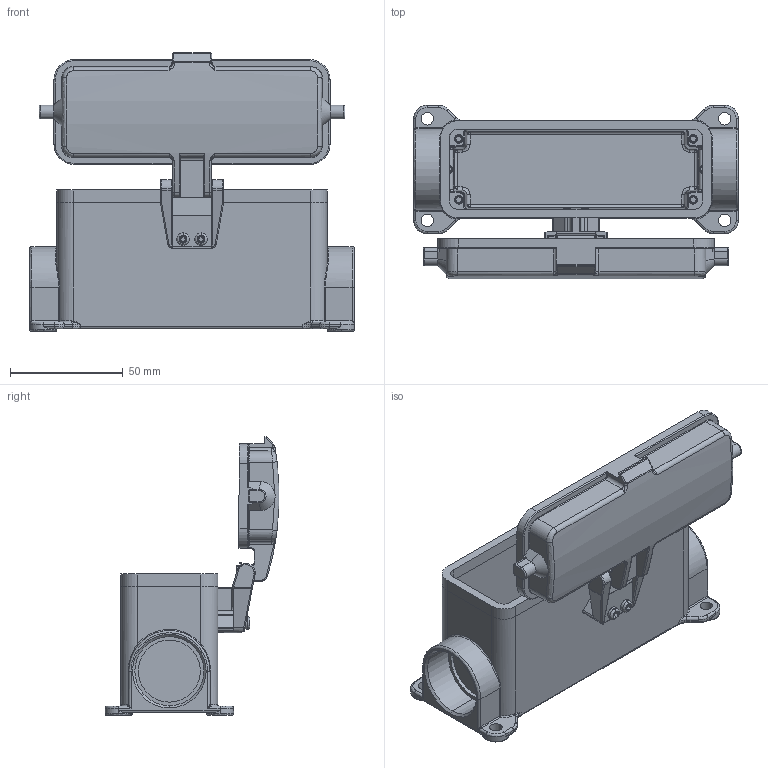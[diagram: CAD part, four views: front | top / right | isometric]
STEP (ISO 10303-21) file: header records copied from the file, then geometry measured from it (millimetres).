
FILE_DESCRIPTION (( 'STEP AP203' ), '1' );
FILE_NAME ('H24B-SDR-BO-M25.STEP', '2020-11-21T06:43:38', ( '' ), ( '' ), 'SwSTEP 2.0', 'SolidWorks 2016', '' );
FILE_SCHEMA (( 'CONFIG_CONTROL_DESIGN' ));
Products named in the file (8): b-xl-t-gudingjian; baohugailuosi; baohugaitanpian; mifengdian; 0000241120; H24B-SDR-BO-M25; 24B-SURFACE-M-LOWCONSTRUCTION; chaxiao
Assembly tree (8 placements, depth 2):
  H24B-SDR-BO-M25
    mifengdian
    chaxiao
    b-xl-t-gudingjian
    baohugaitanpian
    baohugailuosi  x2
    0000241120
    24B-SURFACE-M-LOWCONSTRUCTION
Bounding box: 144 x 77.09 x 123.39 mm (x, y, z)
Volume: 138514.2 mm3; surface area: 86022.4 mm2
Topology: 8 solids, 8 shells, 1124 faces, 2778 edges, 1683 vertices
Faces by surface type: cylinder 526, bspline 306, plane 248, cone 44
Entity records: 156708 total; most frequent: CARTESIAN_POINT 134602, ORIENTED_EDGE 4832, DIRECTION 3953, EDGE_CURVE 2416, VERTEX_POINT 1466, AXIS2_PLACEMENT_3D 1463, EDGE_LOOP 1034, LINE 1027
